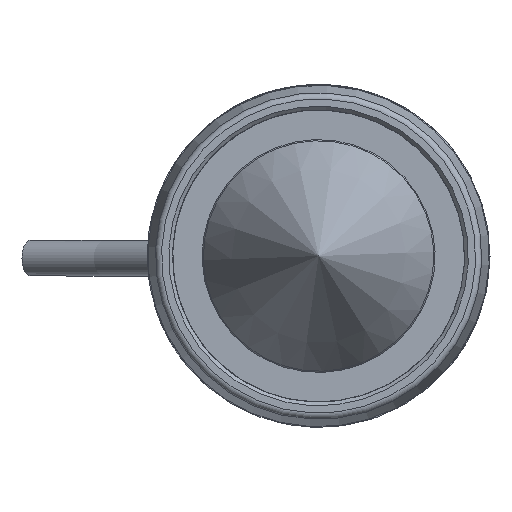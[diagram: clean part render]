
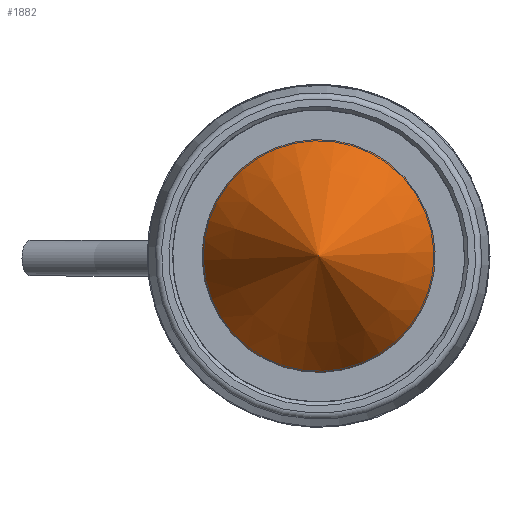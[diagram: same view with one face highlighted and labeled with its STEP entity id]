
A CAD part, front view. The second image highlights one B-rep face of the part: STEP entity #1882.
In plain terms, the highlighted conical face has half-angle 29.809 degrees and reference radius 572.914 mm.
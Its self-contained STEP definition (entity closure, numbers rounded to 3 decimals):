
#487 = ORIENTED_EDGE ( 'NONE', *, *, #13221, .F. ) ;
#550 = DIRECTION ( 'NONE',  ( -1., 0., 0. ) ) ;
#1268 = VERTEX_POINT ( 'NONE', #6004 ) ;
#1882 = ADVANCED_FACE ( 'NONE', ( #2932 ), #2680, .T. ) ;
#2680 = CONICAL_SURFACE ( 'NONE', #9538, 572.914, 0.52 ) ;
#2932 = FACE_OUTER_BOUND ( 'NONE', #4574, .T. ) ;
#3506 = CIRCLE ( 'NONE', #9422, 9.174 ) ;
#4037 = DIRECTION ( 'NONE',  ( 0., -1., 0. ) ) ;
#4574 = EDGE_LOOP ( 'NONE', ( #487 ) ) ;
#6004 = CARTESIAN_POINT ( 'NONE',  ( 11.016, -9.174, 0. ) ) ;
#6013 = DIRECTION ( 'NONE',  ( -1., 0., 0. ) ) ;
#9422 = AXIS2_PLACEMENT_3D ( 'NONE', #11670, #6013, #13958 ) ;
#9538 = AXIS2_PLACEMENT_3D ( 'NONE', #14284, #550, #4037 ) ;
#11670 = CARTESIAN_POINT ( 'NONE',  ( 11.016, 0., 0. ) ) ;
#13221 = EDGE_CURVE ( 'NONE', #1268, #1268, #3506, .T. ) ;
#13958 = DIRECTION ( 'NONE',  ( 0., -1., 0. ) ) ;
#14284 = CARTESIAN_POINT ( 'NONE',  ( -972.97, 0., 0. ) ) ;
